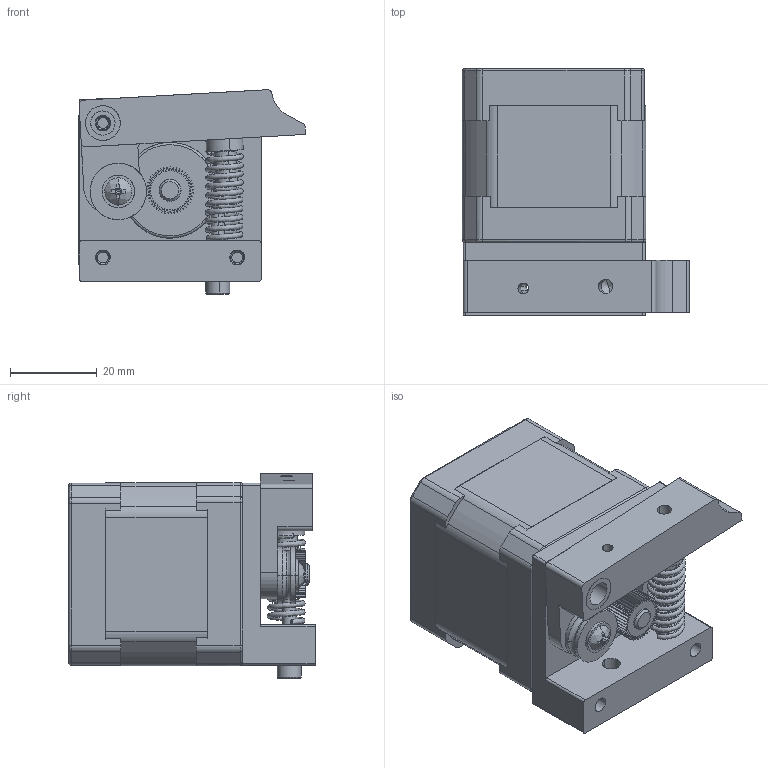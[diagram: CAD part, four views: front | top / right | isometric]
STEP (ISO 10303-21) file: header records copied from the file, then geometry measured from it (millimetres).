
FILE_DESCRIPTION(/* description */ (''),/* implementation_level */ '2;1');
FILE_NAME(/* name */ 'EXTRUS~1',/* time_stamp */ '2019-04-01T20:08:22-03:00',/* author */ (''),/* organization */ (''),/* preprocessor_version */ 'ST-DEVELOPER v16.5',/* originating_system */ '',/* authorisation */ '');
FILE_SCHEMA (('AUTOMOTIVE_DESIGN'));
Length unit declared in the file: millimetre
Products named in the file (19): Document; 17HM15-0904S___ _________; nema17_middle_17HM15-0904S___ _________; countersunk flat head cross recess screw_din_ISO 7046-1 - M3 x 25 - Z
 --- 25N; nema17_shaft_17HM15-0904S___ _________; radial ball bearing_68_din_DIN 625 - 625 - 8,SI,NC,8_68; nema17_bottom_17HM15-0904S___ _________; nema17_top_17HM15-0904S___ _________; countersunk flat head cross recess screw_din_ISO 7046-1 - M3 x 30 - Z
 --- 30N; MK8_Ekruder; socket head cap screw_din_DIN 912 M3 x 16 --- 16N; MK8_Exruder_001; socket head cap screw_din_DIN 912 M5 x 8 --- 8N; MK8_Exruder_005; MK8_Exruder_003; MK8_Exruder_002; pan head cross collar screw_din_DIN 967 - M3 x 8 - Z --- 7N; MK8_Exruder_004(yay); MK8_Exruder_006
Assembly tree (21 placements, depth 3):
  Document
    17HM15-0904S___ _________
      nema17_middle_17HM15-0904S___ _________
      countersunk flat head cross recess screw_din_ISO 7046-1 - M3 x 25 - Z
 --- 25N
      nema17_shaft_17HM15-0904S___ _________
      radial ball bearing_68_din_DIN 625 - 625 - 8,SI,NC,8_68  x2
      nema17_bottom_17HM15-0904S___ _________
      nema17_top_17HM15-0904S___ _________
      countersunk flat head cross recess screw_din_ISO 7046-1 - M3 x 30 - Z
 --- 30N  x3
    MK8_Ekruder
      socket head cap screw_din_DIN 912 M3 x 16 --- 16N
      MK8_Exruder_001
      socket head cap screw_din_DIN 912 M5 x 8 --- 8N
      MK8_Exruder_005
      MK8_Exruder_003
      MK8_Exruder_002
      pan head cross collar screw_din_DIN 967 - M3 x 8 - Z --- 7N
      MK8_Exruder_004(yay)
    MK8_Exruder_006
Bounding box: 52.42 x 56.8 x 47.21 mm (x, y, z)
Volume: 69965.3 mm3; surface area: 36389.7 mm2
Topology: 19 solids, 19 shells, 749 faces, 1870 edges, 1167 vertices
Faces by surface type: plane 394, bspline 355
Entity records: 28152 total; most frequent: CARTESIAN_POINT 17608, ORIENTED_EDGE 3232, EDGE_CURVE 1616, VERTEX_POINT 1027, B_SPLINE_CURVE_WITH_KNOTS 960, EDGE_LOOP 717, ADVANCED_FACE 639, FACE_OUTER_BOUND 639
